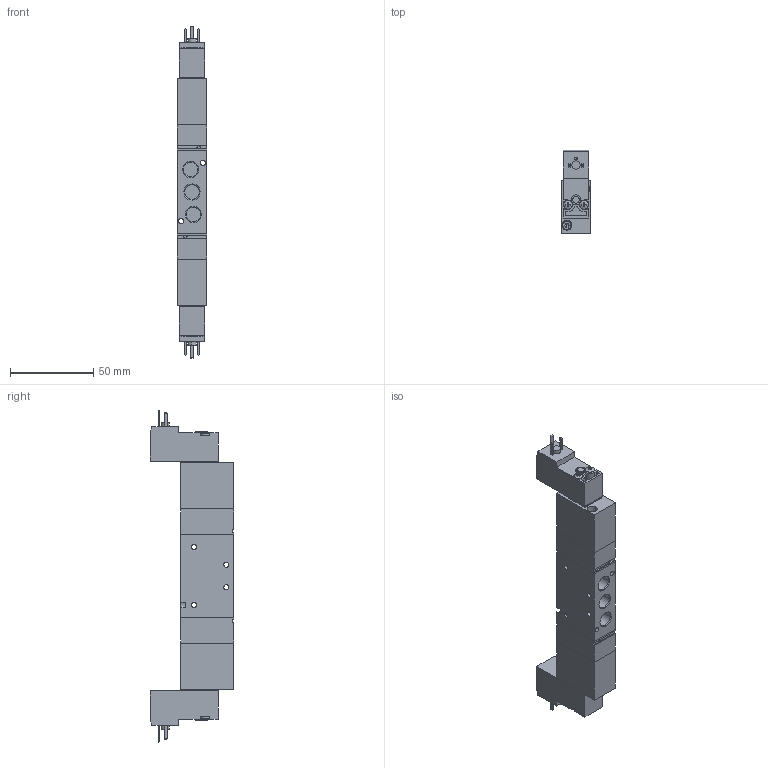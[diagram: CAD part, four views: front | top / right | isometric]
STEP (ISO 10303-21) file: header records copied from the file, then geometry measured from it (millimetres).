
FILE_DESCRIPTION (( 'STEP AP214' ), '1' );
FILE_NAME ('05_092_4.STEP', '2016-02-25T14:07:46', ( '' ), ( '' ), 'SwSTEP 2.0', 'SolidWorks 2016', '' );
FILE_SCHEMA (( 'AUTOMOTIVE_DESIGN' ));
Length unit declared in the file: millimetre
Products named in the file (1): 05_092_4
Bounding box: 18 x 50.3 x 200 mm (x, y, z)
Volume: 97496.2 mm3; surface area: 33293.6 mm2
Topology: 11 solids, 11 shells, 1404 faces, 3279 edges, 1916 vertices
Faces by surface type: cone 650, cylinder 399, plane 327, bspline 28
Entity records: 42333 total; most frequent: CARTESIAN_POINT 7704, DIRECTION 7453, ORIENTED_EDGE 6526, EDGE_CURVE 3263, AXIS2_PLACEMENT_3D 2929, VERTEX_POINT 1916, VECTOR 1595, LINE 1595
